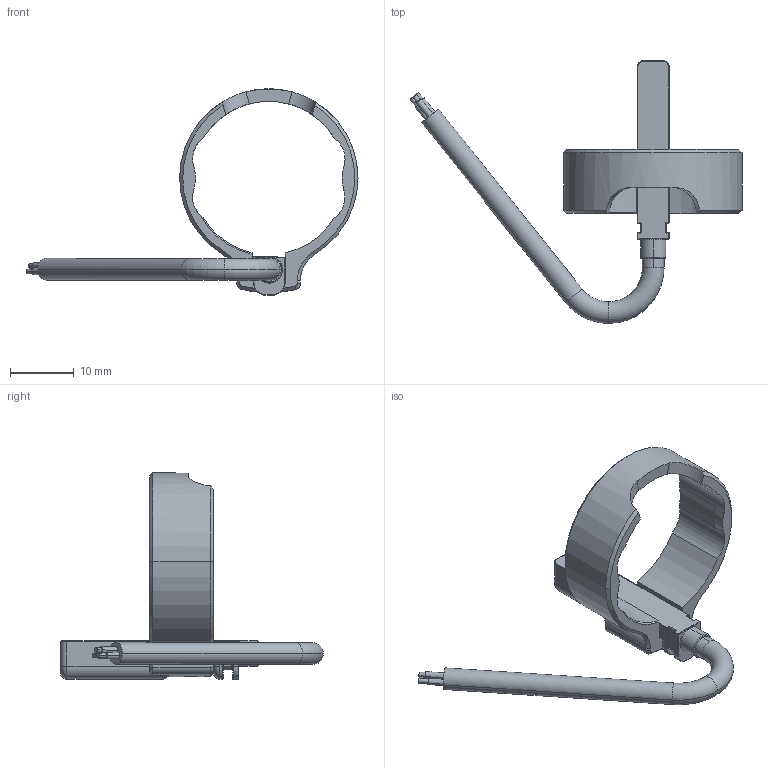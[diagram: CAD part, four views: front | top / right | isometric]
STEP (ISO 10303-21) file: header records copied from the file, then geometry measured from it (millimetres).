
FILE_DESCRIPTION (( 'STEP AP203' ), '1' );
FILE_NAME ('DHS2017-Schelle-mit-Sensor.STEP', '2013-11-29T13:24:36', ( '' ), ( '' ), 'SwSTEP 2.0', 'SolidWorks 2012', '' );
FILE_SCHEMA (( 'CONFIG_CONTROL_DESIGN' ));
Length unit declared in the file: millimetre
Products named in the file (1): DHS2017-Schelle-mit-Sensor
Bounding box: 52.11 x 41.26 x 32.4 mm (x, y, z)
Volume: 2858.4 mm3; surface area: 3113.5 mm2
Topology: 1 solids, 1 shells, 246 faces, 603 edges, 353 vertices
Faces by surface type: cylinder 112, plane 58, torus 41, cone 19, bspline 10, sphere 6
Entity records: 8152 total; most frequent: CARTESIAN_POINT 2291, DIRECTION 1293, ORIENTED_EDGE 1186, EDGE_CURVE 593, AXIS2_PLACEMENT_3D 521, VERTEX_POINT 353, CIRCLE 284, EDGE_LOOP 252
